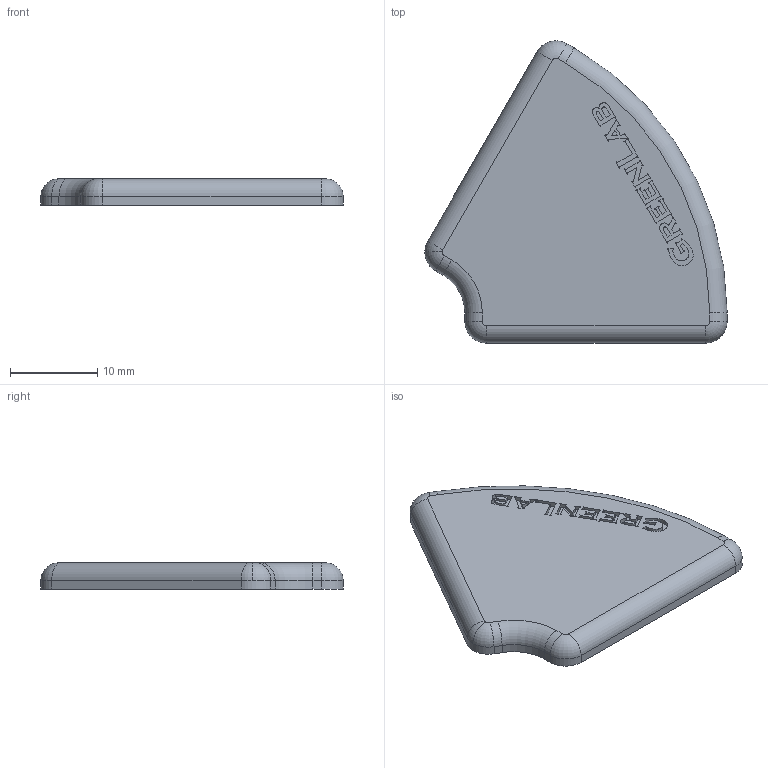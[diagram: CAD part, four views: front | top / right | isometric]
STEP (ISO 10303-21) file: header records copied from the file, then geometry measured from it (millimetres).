
FILE_DESCRIPTION (( 'STEP AP214' ), '1' );
FILE_NAME ('1.1008 Päätysuoja 30 R 60.STEP', '2023-12-04T12:41:55', ( '' ), ( '' ), 'SwSTEP 2.0', 'SolidWorks 2019', '' );
FILE_SCHEMA (( 'AUTOMOTIVE_DESIGN' ));
Length unit declared in the file: millimetre
Products named in the file (1): 1.1008 Päätysuoja 30 R 60
Bounding box: 34.58 x 34.58 x 3 mm (x, y, z)
Volume: 2386.5 mm3; surface area: 1952 mm2
Topology: 1 solids, 1 shells, 249 faces, 693 edges, 458 vertices
Faces by surface type: plane 145, bspline 85, cylinder 12, torus 7
Entity records: 10580 total; most frequent: CARTESIAN_POINT 4718, ORIENTED_EDGE 1386, DIRECTION 886, EDGE_CURVE 693, LINE 490, VECTOR 490, VERTEX_POINT 458, EDGE_LOOP 261
